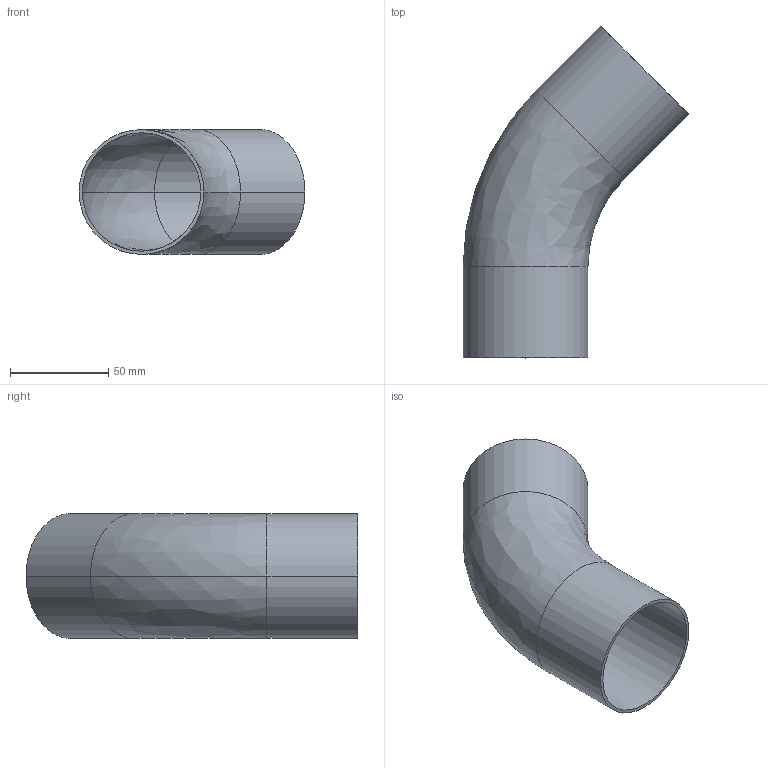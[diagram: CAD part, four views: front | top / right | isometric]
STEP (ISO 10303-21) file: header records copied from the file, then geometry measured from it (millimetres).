
FILE_DESCRIPTION (( 'STEP AP214' ), '1' );
FILE_NAME ('TE2KS6L2.5-...STEP', '2016-05-22T06:53:21', ( 'eran' ), ( '' ), 'SwSTEP 2.0', 'SolidWorks 2016', '' );
FILE_SCHEMA (( 'AUTOMOTIVE_DESIGN' ));
Length unit declared in the file: millimetre
Products named in the file (1): TE2KS6L2.5-..
Bounding box: 114.8 x 168.75 x 63.5 mm (x, y, z)
Volume: 53638.8 mm3; surface area: 65657.9 mm2
Topology: 1 solids, 1 shells, 14 faces, 28 edges, 16 vertices
Faces by surface type: cylinder 8, bspline 4, plane 2
Entity records: 450 total; most frequent: CARTESIAN_POINT 119, DIRECTION 70, ORIENTED_EDGE 56, AXIS2_PLACEMENT_3D 31, EDGE_CURVE 28, CIRCLE 20, EDGE_LOOP 16, VERTEX_POINT 16
